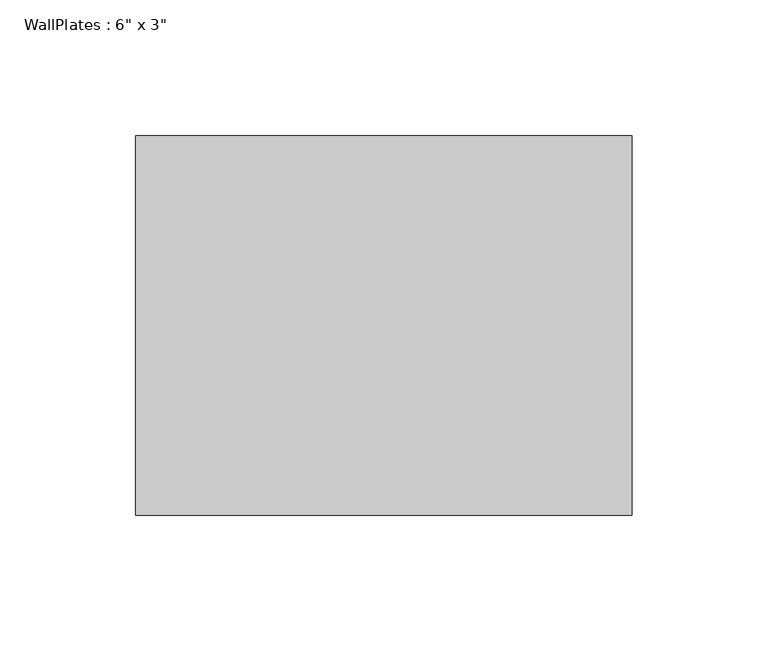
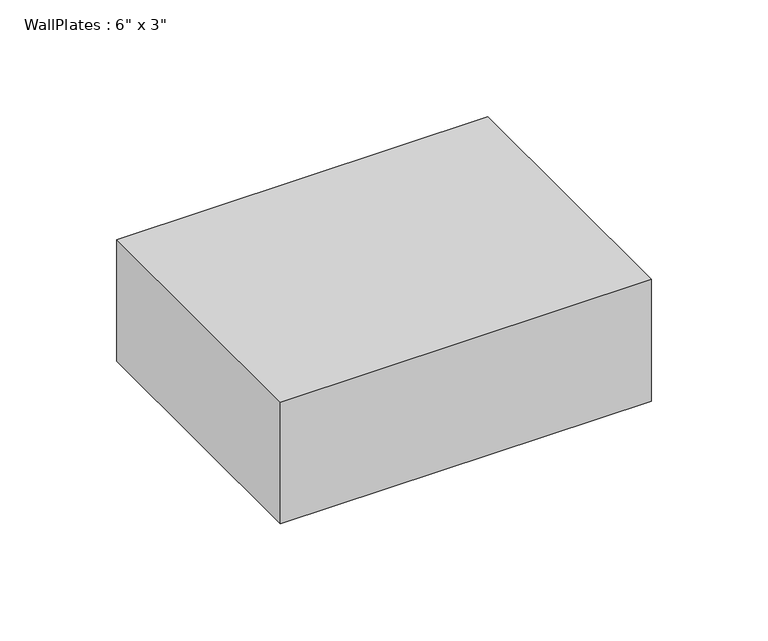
"""IFC4 building model written with IfcOpenShell, lengths in millimetres: beam geometry."""

from ifc_helpers import new_model, si_unit, frame, origin, place, context, project, spatial, polyline, outline, extrude, source, transform, mapped, element, save


def beam_9f6d142c(model_context):
    return source(origin(), model_context, "Body", "SweptSolid", [
        extrude(outline(polyline([(-91.445, -69.85), (-91.445, 69.85), (91.445, 69.85), (91.445, -69.85), (-91.445, -69.85)])), frame((0.0, 0.0, -31.75), z_axis=(0.0, 0.0, 1.0), x_axis=(1.0, 0.0, 0.0)), (0.0, 0.0, 1.0), 63.5),
    ])


if __name__ == "__main__":
    model = new_model("IFC4")
    model_context = context("Model", 3, world=origin())
    ifc_project = project(units=[si_unit("LENGTHUNIT", "METRE", prefix="MILLI")], contexts=[model_context])
    site = spatial("IfcSite", under=ifc_project)
    building = spatial("IfcBuilding", under=site)
    placement = place(None, origin())
    beam_shape = beam_9f6d142c(model_context)
    element("IfcBeam", 1, ObjectType="WallPlates : 6\" x 3\"", at=placement, inside=building, context=model_context, shape_type="MappedRepresentation", body=[
        mapped(beam_shape, transform((0.0, 0.0, 0.0), x_axis=(1.0, 0.0, 0.0), y_axis=(0.0, 1.0, 0.0), z_axis=(0.0, 0.0, 1.0))),
    ])
    save(model, "model.ifc")
